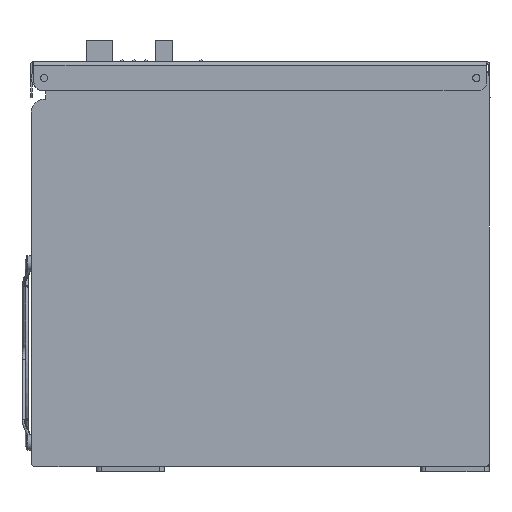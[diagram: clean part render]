
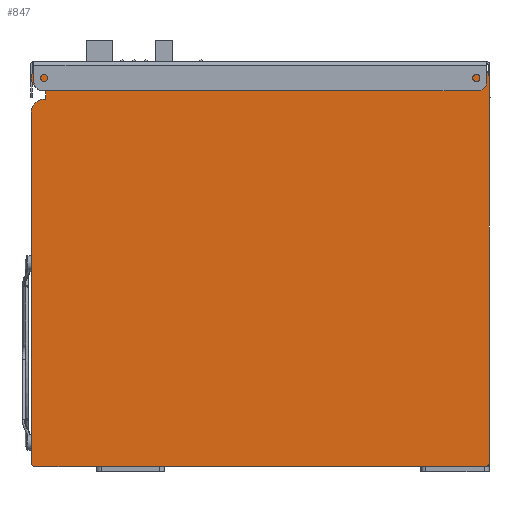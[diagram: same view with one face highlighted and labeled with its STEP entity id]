
A CAD part, front view. The second image highlights one B-rep face of the part: STEP entity #847.
In plain terms, the highlighted planar face has unit normal (0, -1, 0).
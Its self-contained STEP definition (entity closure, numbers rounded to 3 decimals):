
#847=ADVANCED_FACE('',(#12416),#12418,.F.);
#12416=FACE_BOUND('',#12417,.T.);
#12417=EDGE_LOOP('',(#42009,#42010,#42011,#42012,#42013,#42014,#42015,#42016,#42017,
#42018,#42019,#42020,#42021,#42022,#42023));
#12418=PLANE('',#12419);
#12419=AXIS2_PLACEMENT_3D('',#12420,#12421,#12422);
#12420=CARTESIAN_POINT('',(-19.,-183.,54.));
#12421=DIRECTION('',(0.,1.,0.));
#12422=DIRECTION('',(-1.,0.,0.));
#42009=ORIENTED_EDGE('',*,*,#65004,.T.);
#42010=ORIENTED_EDGE('',*,*,#65005,.F.);
#42011=ORIENTED_EDGE('',*,*,#63900,.T.);
#42012=ORIENTED_EDGE('',*,*,#65006,.F.);
#42013=ORIENTED_EDGE('',*,*,#65007,.F.);
#42014=ORIENTED_EDGE('',*,*,#65008,.F.);
#42015=ORIENTED_EDGE('',*,*,#65009,.F.);
#42016=ORIENTED_EDGE('',*,*,#65010,.F.);
#42017=ORIENTED_EDGE('',*,*,#65011,.T.);
#42018=ORIENTED_EDGE('',*,*,#65012,.T.);
#42019=ORIENTED_EDGE('',*,*,#65013,.T.);
#42020=ORIENTED_EDGE('',*,*,#65014,.F.);
#42021=ORIENTED_EDGE('',*,*,#65015,.F.);
#42022=ORIENTED_EDGE('',*,*,#65016,.F.);
#42023=ORIENTED_EDGE('',*,*,#65017,.F.);
#63900=EDGE_CURVE('',#74094,#74095,#74096,.F.);
#65004=EDGE_CURVE('',#75793,#75854,#75855,.F.);
#65005=EDGE_CURVE('',#74094,#75854,#75856,.T.);
#65006=EDGE_CURVE('',#75857,#74095,#75858,.F.);
#65007=EDGE_CURVE('',#75859,#75857,#75860,.T.);
#65008=EDGE_CURVE('',#75861,#75859,#75862,.F.);
#65009=EDGE_CURVE('',#75863,#75861,#75864,.T.);
#65010=EDGE_CURVE('',#75865,#75863,#75866,.F.);
#65011=EDGE_CURVE('',#75865,#75867,#75868,.T.);
#65012=EDGE_CURVE('',#75867,#75869,#75870,.T.);
#65013=EDGE_CURVE('',#75869,#75871,#75872,.T.);
#65014=EDGE_CURVE('',#75873,#75871,#75874,.F.);
#65015=EDGE_CURVE('',#75875,#75873,#75876,.T.);
#65016=EDGE_CURVE('',#75877,#75875,#75878,.F.);
#65017=EDGE_CURVE('',#75793,#75877,#75879,.T.);
#74094=VERTEX_POINT('',#91438);
#74095=VERTEX_POINT('',#91439);
#74096=LINE('',#91440,#91441);
#75793=VERTEX_POINT('',#95549);
#75854=VERTEX_POINT('',#95718);
#75855=LINE('',#95719,#95720);
#75856=LINE('',#95722,#95723);
#75857=VERTEX_POINT('',#95725);
#75858=CIRCLE('',#95726,2.);
#75859=VERTEX_POINT('',#95730);
#75860=LINE('',#95731,#95732);
#75861=VERTEX_POINT('',#95734);
#75862=CIRCLE('',#95735,7.5);
#75863=VERTEX_POINT('',#95739);
#75864=LINE('',#95740,#95741);
#75865=VERTEX_POINT('',#95743);
#75866=CIRCLE('',#95744,7.5);
#75867=VERTEX_POINT('',#95748);
#75868=LINE('',#95749,#95750);
#75869=VERTEX_POINT('',#95752);
#75870=LINE('',#95753,#95754);
#75871=VERTEX_POINT('',#95756);
#75872=LINE('',#95757,#95758);
#75873=VERTEX_POINT('',#95760);
#75874=CIRCLE('',#95761,7.5);
#75875=VERTEX_POINT('',#95765);
#75876=LINE('',#95766,#95767);
#75877=VERTEX_POINT('',#95769);
#75878=CIRCLE('',#95770,2.);
#75879=LINE('',#95774,#95775);
#91438=CARTESIAN_POINT('',(75.,-183.,-63.5));
#91439=CARTESIAN_POINT('',(113.,-183.,-63.5));
#91440=CARTESIAN_POINT('',(113.,-183.,-63.5));
#91441=VECTOR('',#91442,1.);
#91442=DIRECTION('',(-1.,0.,0.));
#95549=CARTESIAN_POINT('',(-115.,-183.,-63.5));
#95718=CARTESIAN_POINT('',(-75.,-183.,-63.5));
#95719=CARTESIAN_POINT('',(-75.,-183.,-63.5));
#95720=VECTOR('',#95721,1.);
#95721=DIRECTION('',(-1.,0.,0.));
#95722=CARTESIAN_POINT('',(75.,-183.,-63.5));
#95723=VECTOR('',#95724,1.);
#95724=DIRECTION('',(-1.,0.,0.));
#95725=CARTESIAN_POINT('',(115.,-183.,-61.5));
#95726=AXIS2_PLACEMENT_3D('',#95727,#95728,#95729);
#95727=CARTESIAN_POINT('',(113.,-183.,-61.5));
#95728=DIRECTION('',(0.,-1.,0.));
#95729=DIRECTION('',(0.,0.,-1.));
#95730=CARTESIAN_POINT('',(115.,-183.,164.));
#95731=CARTESIAN_POINT('',(115.,-183.,164.));
#95732=VECTOR('',#95733,1.);
#95733=DIRECTION('',(0.,0.,-1.));
#95734=CARTESIAN_POINT('',(107.5,-183.,171.5));
#95735=AXIS2_PLACEMENT_3D('',#95736,#95737,#95738);
#95736=CARTESIAN_POINT('',(107.5,-183.,164.));
#95737=DIRECTION('',(0.,-1.,0.));
#95738=DIRECTION('',(1.,0.,0.));
#95739=CARTESIAN_POINT('',(-145.5,-183.,171.5));
#95740=CARTESIAN_POINT('',(-145.5,-183.,171.5));
#95741=VECTOR('',#95742,1.);
#95742=DIRECTION('',(1.,0.,0.));
#95743=CARTESIAN_POINT('',(-145.5,-183.,156.5));
#95744=AXIS2_PLACEMENT_3D('',#95745,#95746,#95747);
#95745=CARTESIAN_POINT('',(-145.5,-183.,164.));
#95746=DIRECTION('',(0.,-1.,0.));
#95747=DIRECTION('',(0.,0.,1.));
#95748=CARTESIAN_POINT('',(-144.5,-183.,156.5));
#95749=CARTESIAN_POINT('',(-145.5,-183.,156.5));
#95750=VECTOR('',#95751,1.);
#95751=DIRECTION('',(1.,0.,0.));
#95752=CARTESIAN_POINT('',(-144.5,-183.,151.5));
#95753=CARTESIAN_POINT('',(-144.5,-183.,156.5));
#95754=VECTOR('',#95755,1.);
#95755=DIRECTION('',(0.,0.,-1.));
#95756=CARTESIAN_POINT('',(-145.5,-183.,151.5));
#95757=CARTESIAN_POINT('',(-144.5,-183.,151.5));
#95758=VECTOR('',#95759,1.);
#95759=DIRECTION('',(-1.,0.,0.));
#95760=CARTESIAN_POINT('',(-153.,-183.,144.));
#95761=AXIS2_PLACEMENT_3D('',#95762,#95763,#95764);
#95762=CARTESIAN_POINT('',(-145.5,-183.,144.));
#95763=DIRECTION('',(0.,-1.,0.));
#95764=DIRECTION('',(0.,0.,1.));
#95765=CARTESIAN_POINT('',(-153.,-183.,-61.5));
#95766=CARTESIAN_POINT('',(-153.,-183.,-61.5));
#95767=VECTOR('',#95768,1.);
#95768=DIRECTION('',(0.,0.,1.));
#95769=CARTESIAN_POINT('',(-151.,-183.,-63.5));
#95770=AXIS2_PLACEMENT_3D('',#95771,#95772,#95773);
#95771=CARTESIAN_POINT('',(-151.,-183.,-61.5));
#95772=DIRECTION('',(0.,-1.,0.));
#95773=DIRECTION('',(-1.,0.,0.));
#95774=CARTESIAN_POINT('',(-115.,-183.,-63.5));
#95775=VECTOR('',#95776,1.);
#95776=DIRECTION('',(-1.,0.,0.));
